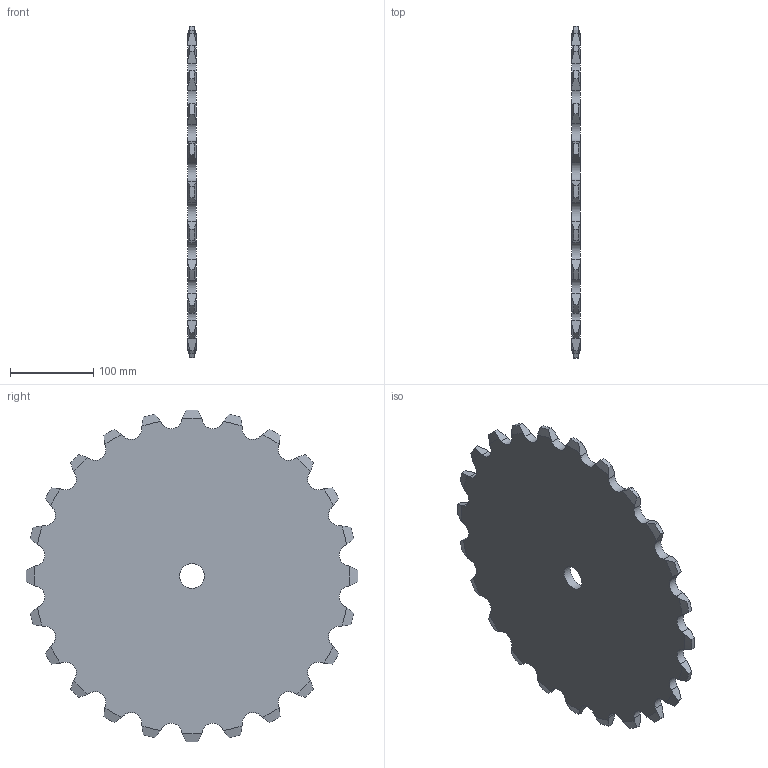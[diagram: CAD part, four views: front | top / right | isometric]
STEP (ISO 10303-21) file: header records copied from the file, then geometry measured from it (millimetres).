
FILE_DESCRIPTION(/* description */ (''),/* implementation_level */ '2;1');
FILE_NAME(/* name */ 'C:\Users\stagistaCAD\Desktop\Nuova cartella\24502524.stp',/* time_stamp */ '2018-06-25T14:59:16+02:00',/* author */ ('stagistacad'),/* organization */ (''),/* preprocessor_version */ 'ST-DEVELOPER v15.6',/* originating_system */ 'Autodesk Inventor 2015',/* authorisation */ '');
FILE_SCHEMA (('AUTOMOTIVE_DESIGN { 1 0 10303 214 3 1 1 }'));
Length unit declared in the file: millimetre
Products named in the file (1): 24502524
Bounding box: 10.5 x 399.97 x 399.97 mm (x, y, z)
Volume: 1167168.8 mm3; surface area: 240733.8 mm2
Topology: 1 solids, 1 shells, 147 faces, 435 edges, 290 vertices
Faces by surface type: cylinder 97, cone 48, plane 2
Full cylindrical faces by diameter (mm): 30 x1
Entity records: 5362 total; most frequent: CARTESIAN_POINT 1352, DIRECTION 876, ORIENTED_EDGE 868, EDGE_CURVE 434, AXIS2_PLACEMENT_3D 390, VERTEX_POINT 290, CIRCLE 242, EDGE_LOOP 150
